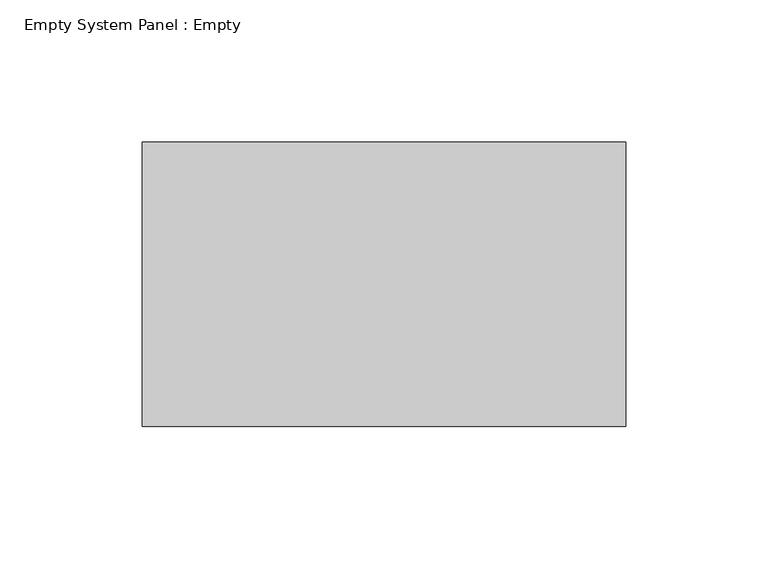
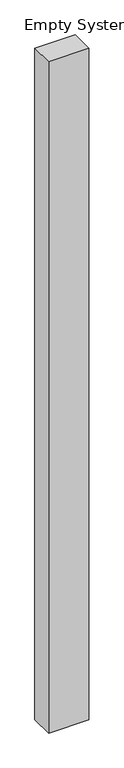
"""IFC4 building model written with IfcOpenShell, lengths in millimetres: plate geometry, Empty System Panel : Empty."""

from ifc_helpers import new_model, si_unit, origin, origin_with_axes, place, context, project, spatial, polyline, outline, extrude, source, transform, mapped, element, save


def empty_system_panel_empty_7d4955fb(model_context):
    return source(origin(), model_context, "Body", "SweptSolid", [
        extrude(outline(polyline([(85.0000002, 50.0), (-85.0000002, 50.0), (-85.0000002, 150.0), (85.0000002, 150.0), (85.0000002, 50.0)])), origin_with_axes(), (0.0, 0.0, 1.0), 3000.0),
    ])


if __name__ == "__main__":
    model = new_model("IFC4")
    model_context = context("Model", 3, world=origin())
    ifc_project = project(units=[si_unit("LENGTHUNIT", "METRE", prefix="MILLI")], contexts=[model_context])
    site = spatial("IfcSite", under=ifc_project)
    building = spatial("IfcBuilding", under=site)
    placement = place(None, origin())
    empty_system_panel_empty_shape = empty_system_panel_empty_7d4955fb(model_context)
    element("IfcPlate", 1, ObjectType="Empty System Panel : Empty", at=placement, inside=building, context=model_context, shape_type="MappedRepresentation", body=[
        mapped(empty_system_panel_empty_shape, transform((0.0, 0.0, 0.0), x_axis=(1.0, 0.0, 0.0), y_axis=(0.0, 1.0, 0.0), z_axis=(0.0, 0.0, 1.0))),
    ])
    save(model, "model.ifc")
